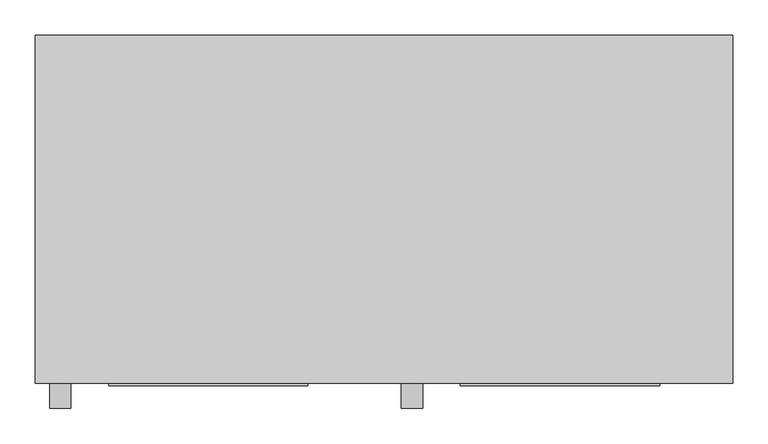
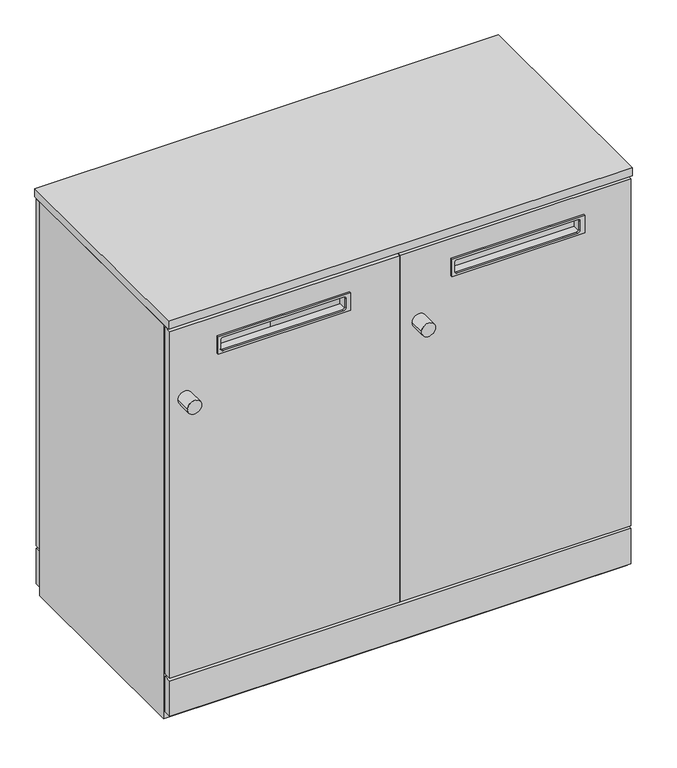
"""IFC4 building model written with IfcOpenShell, lengths in millimetres: furniture geometry, Apex - 2 DOOR - LOW STORAGE CONFIDENTIAL WASTE : APEX-SW-18-CONF2 Confidential waste 500mm(w) x 490mm(d) x 900mm(h)."""

from ifc_helpers import new_model, si_unit, point, frame, frame_2d, origin, place, context, project, spatial, polyline, circle_curve, trimmed, segment, composite_curve, outline, extrude, source, transform, mapped, element, save


def furniture_6f07f4d4(model_context):
    return source(origin(), model_context, "Body", "SweptSolid", [
        extrude(outline(polyline([(832.2054431, 598.4248843), (792.2054431, 598.4248843), (792.2054431, 879.2998243), (832.2054431, 879.2998243), (832.2054431, 598.4248843)]), holes=[composite_curve([segment(polyline([(827.2054431, 609.4248843), (827.2054431, 864.4248843)]), True, "CONTINUOUS"), segment(trimmed(circle_curve(frame_2d((822.2054431, 864.4248843)), 5.0), [point((827.2054431, 864.4248843))], [point((822.2054431, 869.4248843))], True, "CARTESIAN"), True, "CONTINUOUS"), segment(polyline([(822.2054431, 869.4248843), (802.2054431, 869.4248843)]), True, "CONTINUOUS"), segment(trimmed(circle_curve(frame_2d((802.2054431, 864.4248843)), 5.0), [point((802.2054431, 869.4248843))], [point((797.2054431, 864.4248843))], True, "CARTESIAN"), True, "CONTINUOUS"), segment(polyline([(797.2054431, 864.4248843), (797.2054431, 609.4248843)]), True, "CONTINUOUS"), segment(trimmed(circle_curve(frame_2d((802.2054431, 609.4248843)), 5.0), [point((797.2054431, 609.4248843))], [point((802.2054431, 604.4248843))], True, "CARTESIAN"), True, "CONTINUOUS"), segment(polyline([(802.2054431, 604.4248843), (822.2054431, 604.4248843)]), True, "CONTINUOUS"), segment(trimmed(circle_curve(frame_2d((822.2054431, 609.4248843)), 5.0), [point((822.2054431, 604.4248843))], [point((827.2054431, 609.4248843))], True, "CARTESIAN"), True, "CONTINUOUS")], self_intersect=False)]), frame((0.0, -493.742038, 0.0), z_axis=(0.0, 1.0, 0.0), x_axis=(0.0, 0.0, 1.0)), (0.0, 0.0, 1.0), 3.742038),
        extrude(outline(polyline([(876.0, 979.0), (876.0, 491.597332), (100.0, 491.597332), (100.0, 979.0), (876.0, 979.0)]), holes=[polyline([(797.2054431, 604.4248843), (827.2054431, 604.4248843), (827.2054431, 869.4248843), (797.2054431, 869.4248843), (797.2054431, 604.4248843)])]), frame((0.0, -490.0, 0.0), z_axis=(0.0, 1.0, 0.0), x_axis=(0.0, 0.0, 1.0)), (0.0, 0.0, 1.0), 18.0),
        extrude(outline(polyline([(832.2054431, 103.0), (792.2054431, 103.0), (792.2054431, 383.87494), (832.2054431, 383.87494), (832.2054431, 103.0)]), holes=[composite_curve([segment(polyline([(827.2054431, 114.0), (827.2054431, 369.0)]), True, "CONTINUOUS"), segment(trimmed(circle_curve(frame_2d((822.2054431, 369.0)), 5.0), [point((827.2054431, 369.0))], [point((822.2054431, 374.0))], True, "CARTESIAN"), True, "CONTINUOUS"), segment(polyline([(822.2054431, 374.0), (802.2054431, 374.0)]), True, "CONTINUOUS"), segment(trimmed(circle_curve(frame_2d((802.2054431, 369.0)), 5.0), [point((802.2054431, 374.0))], [point((797.2054431, 369.0))], True, "CARTESIAN"), True, "CONTINUOUS"), segment(polyline([(797.2054431, 369.0), (797.2054431, 114.0)]), True, "CONTINUOUS"), segment(trimmed(circle_curve(frame_2d((802.2054431, 114.0)), 5.0), [point((797.2054431, 114.0))], [point((802.2054431, 109.0))], True, "CARTESIAN"), True, "CONTINUOUS"), segment(polyline([(802.2054431, 109.0), (822.2054431, 109.0)]), True, "CONTINUOUS"), segment(trimmed(circle_curve(frame_2d((822.2054431, 114.0)), 5.0), [point((822.2054431, 109.0))], [point((827.2054431, 114.0))], True, "CARTESIAN"), True, "CONTINUOUS")], self_intersect=False)]), frame((0.0, -493.742038, 0.0), z_axis=(0.0, 1.0, 0.0), x_axis=(0.0, 0.0, 1.0)), (0.0, 0.0, 1.0), 3.742038),
        extrude(outline(composite_curve([segment(trimmed(circle_curve(frame_2d((717.0, 530.4248843)), 15.0), [point((717.0, 515.4248843))], [point((717.0, 545.4248843))], False, "CARTESIAN"), True, "CONTINUOUS"), segment(trimmed(circle_curve(frame_2d((717.0, 530.4248843)), 15.0), [point((717.0, 545.4248843))], [point((717.0, 515.4248843))], False, "CARTESIAN"), True, "CONTINUOUS")], self_intersect=False)), frame((0.0, -525.0, 0.0), z_axis=(0.0, 1.0, 0.0), x_axis=(0.0, 0.0, 1.0)), (0.0, 0.0, 1.0), 35.0),
        extrude(outline(polyline([(982.0, -490.0), (0.0, -490.0), (0.0, 0.0), (982.0, 0.0), (982.0, -490.0)])), frame((0.0, 0.0, 882.0), z_axis=(0.0, 0.0, 1.0), x_axis=(1.0, 0.0, 0.0)), (0.0, 0.0, 1.0), 18.0),
        extrude(outline(composite_curve([segment(trimmed(circle_curve(frame_2d((717.0, 35.0)), 15.0), [point((717.0, 20.0))], [point((717.0, 50.0))], False, "CARTESIAN"), True, "CONTINUOUS"), segment(trimmed(circle_curve(frame_2d((717.0, 35.0)), 15.0), [point((717.0, 50.0))], [point((717.0, 20.0))], False, "CARTESIAN"), True, "CONTINUOUS")], self_intersect=False)), frame((0.0, -525.0, 0.0), z_axis=(0.0, 1.0, 0.0), x_axis=(0.0, 0.0, 1.0)), (0.0, 0.0, 1.0), 35.0),
        extrude(outline(polyline([(882.0, 982.0), (882.0, 0.0), (0.0, 0.0), (0.0, 982.0), (882.0, 982.0)]), holes=[polyline([(100.0, 488.9007011), (100.0, 3.0), (876.0, 3.0), (876.0, 488.9007011), (100.0, 488.9007011)])]), frame((0.0, -472.0, 0.0), z_axis=(0.0, 1.0, 0.0), x_axis=(0.0, 0.0, 1.0)), (0.0, 0.0, 1.0), 454.0),
        extrude(outline(polyline([(876.0, 488.9007011), (876.0, 3.0), (100.0, 3.0), (100.0, 488.9007011), (876.0, 488.9007011)]), holes=[polyline([(797.2054431, 109.0), (827.2054431, 109.0), (827.2054431, 374.0), (797.2054431, 374.0), (797.2054431, 109.0)])]), frame((0.0, -490.0, 0.0), z_axis=(0.0, 1.0, 0.0), x_axis=(0.0, 0.0, 1.0)), (0.0, 0.0, 1.0), 18.0),
        extrude(outline(polyline([(979.0, 0.0), (979.0, -18.0), (3.0, -18.0), (3.0, 0.0), (979.0, 0.0)])), frame((0.0, 0.0, 100.0), z_axis=(0.0, 0.0, 1.0), x_axis=(1.0, 0.0, 0.0)), (0.0, 0.0, 1.0), 776.0),
        extrude(outline(polyline([(979.0, -18.0), (3.0, -18.0), (3.0, 0.0), (979.0, 0.0), (979.0, -18.0)])), frame((0.0, 0.0, 15.0), z_axis=(0.0, 0.0, 1.0), x_axis=(1.0, 0.0, 0.0)), (0.0, 0.0, 1.0), 79.0),
        extrude(outline(polyline([(979.0, -490.0), (3.0, -490.0), (3.0, -472.0), (979.0, -472.0), (979.0, -490.0)])), frame((0.0, 0.0, 15.0), z_axis=(0.0, 0.0, 1.0), x_axis=(1.0, 0.0, 0.0)), (0.0, 0.0, 1.0), 79.0),
    ])


if __name__ == "__main__":
    model = new_model("IFC4")
    model_context = context("Model", 3, world=origin())
    ifc_project = project(units=[si_unit("LENGTHUNIT", "METRE", prefix="MILLI")], contexts=[model_context])
    site = spatial("IfcSite", under=ifc_project)
    building = spatial("IfcBuilding", under=site)
    placement = place(None, origin())
    furniture_shape = furniture_6f07f4d4(model_context)
    element("IfcFurniture", 1, ObjectType="Apex - 2 DOOR - LOW STORAGE CONFIDENTIAL WASTE : APEX-SW-18-CONF2 Confidential waste 500mm(w) x 490mm(d) x 900mm(h)", at=placement, inside=building, context=model_context, shape_type="MappedRepresentation", body=[
        mapped(furniture_shape, transform((0.0, 0.0, 0.0), x_axis=(1.0, 0.0, 0.0), y_axis=(0.0, 1.0, 0.0), z_axis=(0.0, 0.0, 1.0))),
    ])
    save(model, "model.ifc")
